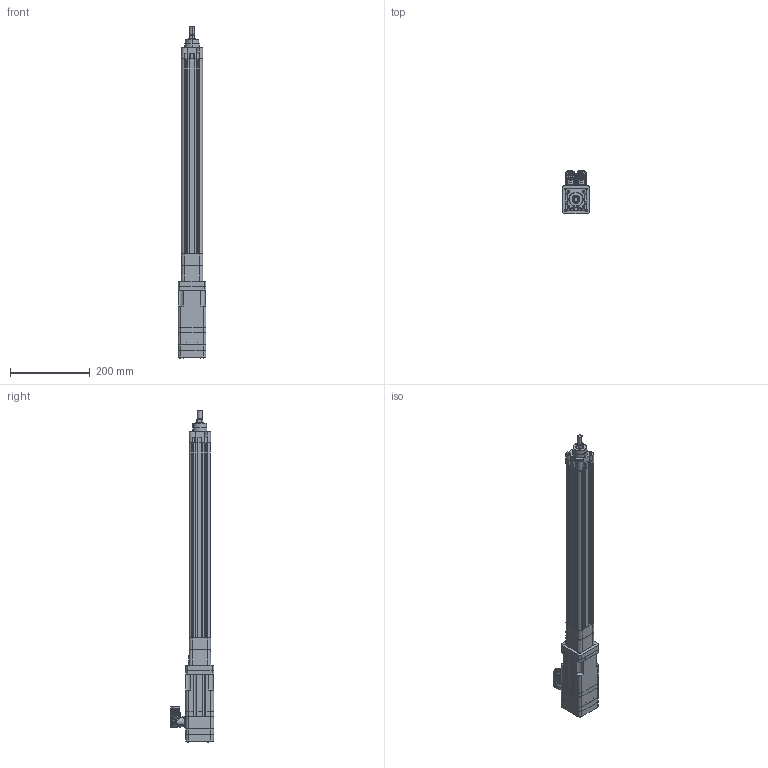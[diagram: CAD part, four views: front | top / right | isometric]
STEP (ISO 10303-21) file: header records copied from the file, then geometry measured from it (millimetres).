
FILE_DESCRIPTION((''),'2;1');
FILE_NAME('MPAR-X2400F-V4A_ASM','2009-04-15T',('dperuma'),('Rockwell Automation'),'PRO/ENGINEER BY PARAMETRIC TECHNOLOGY CORPORATION, 2004490','PRO/ENGINEER BY PARAMETRIC TECHNOLOGY CORPORATION, 2004490','');
FILE_SCHEMA(('CONFIG_CONTROL_DESIGN'));
Length unit declared in the file: millimetre
Products named in the file (46): 1-543133; 2-543133; 627368_627373_ASM; 627464; 627459; 627454; CA33128-025_0_1; EPF_CA30592_0_1; IMPORT-1113_1; IMPORT-1114_1; IMPORT-1115_1; EPF-CA28084-0_ASM_1_ASM; MPG-FASTNER-1116_1; MPG-FASTNER-1117_1; MPG-FASTNER-1118_1; MPG-FASTNER-1119_1; EPF-CA28083-0_ASM_1_ASM; DIN912-2-5-006-0_1; MPG-FASTNER-1122_1; MPG-FASTNER-1123_1; EPF-C08363-0_ASM_1_ASM; EPF-C08459-001-0_1; G4X3L25_0_ASM_1_ASM; B220_BRK_HSG_1; EPF_B47941-001_A_1; IMPORT-1106_1; MANIFOLD_SOLID_BREP_45981; MANIFOLD_SOLID_BREP_46020; MANIFOLD_SOLID_BREP_46059; MANIFOLD_SOLID_BREP_46098; MANIFOLD_SOLID_BREP_46137; MANIFOLD_SOLID_BREP_46176; MANIFOLD_SOLID_BREP_46215; MANIFOLD_SOLID_BREP_46254; IMPORT-1107_1_ASM; IMPORT-1108_1; A73229-002_D_ASM_1_ASM; EPF_CA30897MOD_0_1; 0011-G403_1; DIN912_004_012_0_1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
Assembly tree (69 placements, depth 6):
  MPAR-X2400F-V4A_ASM
    627368_627373_ASM
      1-543133
      2-543133
    627464
    627459
    627454
    MPL-220-J44AA_ASM
      MPL_220_J44AA_ASM_1_ASM
        G4X3L25_0_ASM_1_ASM
          CA33128-025_0_1
          EPF_CA30592_0_1
          EPF-CA28084-0_ASM_1_ASM
            IMPORT-1113_1
            IMPORT-1114_1
            IMPORT-1115_1
          EPF-CA28083-0_ASM_1_ASM
            MPG-FASTNER-1116_1
            MPG-FASTNER-1117_1
            MPG-FASTNER-1118_1
            MPG-FASTNER-1119_1
          DIN912-2-5-006-0_1  x8
          EPF-C08363-0_ASM_1_ASM  x4
            MPG-FASTNER-1122_1
            MPG-FASTNER-1123_1
          EPF-C08459-001-0_1  x8
        B220_BRK_HSG_1
        EPF_B47941-001_A_1
        A73229-002_D_ASM_1_ASM
          IMPORT-1106_1
          IMPORT-1107_1_ASM
            MANIFOLD_SOLID_BREP_45981
            MANIFOLD_SOLID_BREP_46020
            MANIFOLD_SOLID_BREP_46059
            MANIFOLD_SOLID_BREP_46098
            MANIFOLD_SOLID_BREP_46137
            MANIFOLD_SOLID_BREP_46176
            MANIFOLD_SOLID_BREP_46215
            MANIFOLD_SOLID_BREP_46254
          IMPORT-1108_1
        EPF_CA30897MOD_0_1
        0011-G403_1
        DIN912_004_012_0_1  x4
        EPF-C08725-001-0_1  x2
        X2XX_BRK_1
        EPF-DIN7985-003-020-0_1  x4
Bounding box: 70 x 109 x 831.1 mm (x, y, z)
Volume: 1945933.6 mm3; surface area: 464916 mm2
Topology: 63 solids, 70 shells, 3237 faces, 8258 edges, 5207 vertices
Faces by surface type: cylinder 1339, plane 993, cone 562, torus 250, sphere 60, bspline 33
Entity records: 90165 total; most frequent: CARTESIAN_POINT 23435, DIRECTION 14381, ORIENTED_EDGE 13554, EDGE_CURVE 6784, AXIS2_PLACEMENT_3D 5663, VERTEX_POINT 4403, VECTOR 3055, LINE 3055
